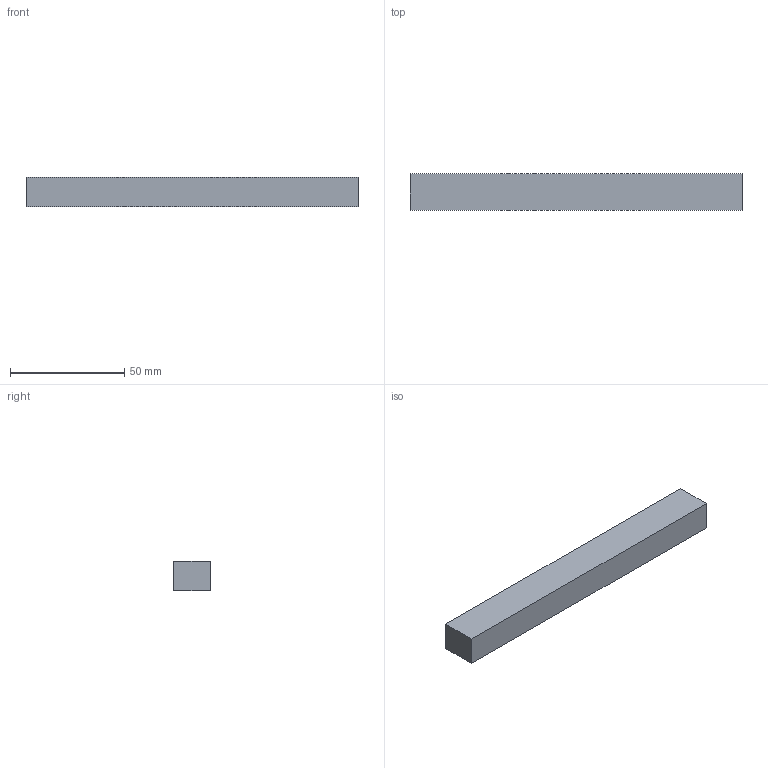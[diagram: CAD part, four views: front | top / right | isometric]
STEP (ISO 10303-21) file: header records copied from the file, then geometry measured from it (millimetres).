
FILE_DESCRIPTION(('Open CASCADE Model'),'2;1');
FILE_NAME('Open CASCADE Shape Model','2026-10-04T01:02:29',('Author'),( 'Open CASCADE'),'Open CASCADE STEP processor 8.0','Open CASCADE 8.0' ,'Unknown');
FILE_SCHEMA(('AUTOMOTIVE_DESIGN { 1 0 10303 214 1 1 1 1 }'));
Length unit declared in the file: millimetre
Products named in the file (1): Open CASCADE STEP translator 8.0 169
Bounding box: 145 x 16 x 13 mm (x, y, z)
Volume: 30160 mm3; surface area: 8826 mm2
Topology: 1 solids, 1 shells, 6 faces, 12 edges, 8 vertices
Faces by surface type: plane 6
Entity records: 322 total; most frequent: CARTESIAN_POINT 51, DIRECTION 50, LINE 36, VECTOR 36, ORIENTED_EDGE 24, PCURVE 24, DEFINITIONAL_REPRESENTATION 24, EDGE_CURVE 12
